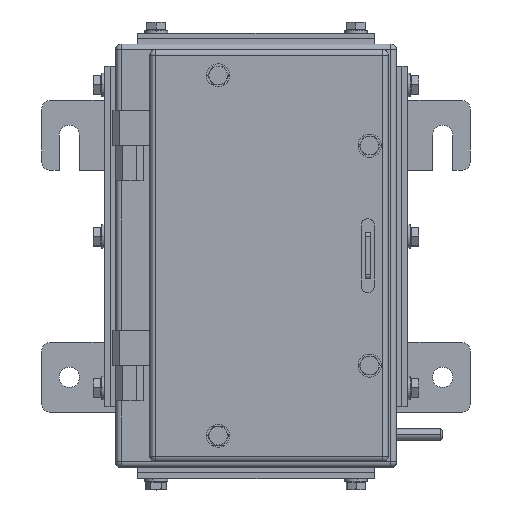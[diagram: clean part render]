
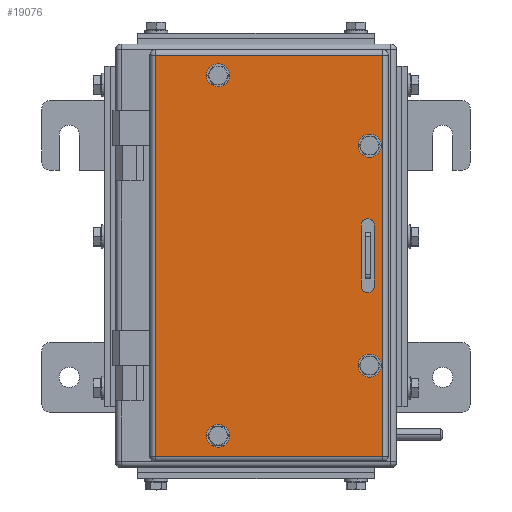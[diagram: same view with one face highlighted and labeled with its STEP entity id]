
A CAD part, top view. The second image highlights one B-rep face of the part: STEP entity #19076.
In plain terms, the highlighted planar face has unit normal (0, 0, 1).
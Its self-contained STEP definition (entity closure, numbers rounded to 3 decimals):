
#20 = EDGE_CURVE ( 'NONE', #1054, #2568, #14419, .T. ) ;
#153 = EDGE_LOOP ( 'NONE', ( #16931, #2972, #19862, #11335 ) ) ;
#221 = FACE_OUTER_BOUND ( 'NONE', #21946, .T. ) ;
#264 = VERTEX_POINT ( 'NONE', #785 ) ;
#358 = CARTESIAN_POINT ( 'NONE',  ( 126.5, 59.5, 18. ) ) ;
#453 = CARTESIAN_POINT ( 'NONE',  ( 48., -97.5, 18. ) ) ;
#639 = EDGE_CURVE ( 'NONE', #1714, #22786, #1722, .T. ) ;
#660 = LINE ( 'NONE', #9839, #17932 ) ;
#785 = CARTESIAN_POINT ( 'NONE',  ( 51.5, 97.5, 18. ) ) ;
#999 = CARTESIAN_POINT ( 'NONE',  ( 137., -108.5, 18. ) ) ;
#1041 = CARTESIAN_POINT ( 'NONE',  ( 125.5, -16.5, 18. ) ) ;
#1054 = VERTEX_POINT ( 'NONE', #358 ) ;
#1407 = LINE ( 'NONE', #4693, #15894 ) ;
#1484 = DIRECTION ( 'NONE',  ( 1., 0., 0. ) ) ;
#1714 = VERTEX_POINT ( 'NONE', #15611 ) ;
#1722 = CIRCLE ( 'NONE', #7369, 3.5 ) ;
#1764 = EDGE_LOOP ( 'NONE', ( #14512, #13770 ) ) ;
#1790 = DIRECTION ( 'NONE',  ( 1., 0., 0. ) ) ;
#1854 = CARTESIAN_POINT ( 'NONE',  ( 44.5, 97.5, 18. ) ) ;
#1988 = DIRECTION ( 'NONE',  ( 1., 0., 0. ) ) ;
#2232 = CARTESIAN_POINT ( 'NONE',  ( 140., 111.5, 18. ) ) ;
#2289 = CARTESIAN_POINT ( 'NONE',  ( 137., 108.5, 18. ) ) ;
#2291 = AXIS2_PLACEMENT_3D ( 'NONE', #9110, #21363, #6691 ) ;
#2395 = VERTEX_POINT ( 'NONE', #21543 ) ;
#2568 = VERTEX_POINT ( 'NONE', #16736 ) ;
#2658 = EDGE_CURVE ( 'NONE', #2395, #13946, #18042, .T. ) ;
#2714 = ORIENTED_EDGE ( 'NONE', *, *, #13389, .T. ) ;
#2750 = CARTESIAN_POINT ( 'NONE',  ( 14., 108.5, 18. ) ) ;
#2796 = DIRECTION ( 'NONE',  ( 0., -1., 0. ) ) ;
#2862 = DIRECTION ( 'NONE',  ( 1., 0., 0. ) ) ;
#2972 = ORIENTED_EDGE ( 'NONE', *, *, #2658, .F. ) ;
#3102 = CARTESIAN_POINT ( 'NONE',  ( 14., -108.5, 18. ) ) ;
#3182 = CARTESIAN_POINT ( 'NONE',  ( 51.5, -97.5, 18. ) ) ;
#3340 = CIRCLE ( 'NONE', #16468, 3.5 ) ;
#3402 = AXIS2_PLACEMENT_3D ( 'NONE', #13677, #22476, #2862 ) ;
#3403 = CARTESIAN_POINT ( 'NONE',  ( 129., -16.5, 18. ) ) ;
#3563 = CARTESIAN_POINT ( 'NONE',  ( 137., 111.5, 18. ) ) ;
#3854 = EDGE_CURVE ( 'NONE', #4027, #20258, #7008, .T. ) ;
#4021 = ORIENTED_EDGE ( 'NONE', *, *, #20, .F. ) ;
#4027 = VERTEX_POINT ( 'NONE', #2750 ) ;
#4203 = DIRECTION ( 'NONE',  ( 1., 0., 0. ) ) ;
#4265 = ORIENTED_EDGE ( 'NONE', *, *, #11876, .T. ) ;
#4266 = VECTOR ( 'NONE', #2796, 1000. ) ;
#4457 = LINE ( 'NONE', #15389, #22543 ) ;
#4488 = ORIENTED_EDGE ( 'NONE', *, *, #11023, .F. ) ;
#4531 = AXIS2_PLACEMENT_3D ( 'NONE', #453, #20216, #6102 ) ;
#4566 = DIRECTION ( 'NONE',  ( 0., 1., 0. ) ) ;
#4585 = EDGE_LOOP ( 'NONE', ( #16946, #18552 ) ) ;
#4693 = CARTESIAN_POINT ( 'NONE',  ( 140., 108.5, 18. ) ) ;
#4890 = ORIENTED_EDGE ( 'NONE', *, *, #22901, .F. ) ;
#4918 = CIRCLE ( 'NONE', #9811, 3.5 ) ;
#5600 = VECTOR ( 'NONE', #16054, 1000. ) ;
#6102 = DIRECTION ( 'NONE',  ( 1., 0., 0. ) ) ;
#6293 = EDGE_CURVE ( 'NONE', #2568, #1054, #10674, .T. ) ;
#6691 = DIRECTION ( 'NONE',  ( 1., 0., 0. ) ) ;
#6788 = CARTESIAN_POINT ( 'NONE',  ( 48., 97.5, 18. ) ) ;
#7008 = LINE ( 'NONE', #8889, #5600 ) ;
#7369 = AXIS2_PLACEMENT_3D ( 'NONE', #12553, #12213, #14425 ) ;
#7428 = VERTEX_POINT ( 'NONE', #17005 ) ;
#8677 = CIRCLE ( 'NONE', #2291, 3.5 ) ;
#8889 = CARTESIAN_POINT ( 'NONE',  ( 14., 111.5, 18. ) ) ;
#9013 = CIRCLE ( 'NONE', #18016, 3.5 ) ;
#9045 = DIRECTION ( 'NONE',  ( 1., 0., 0. ) ) ;
#9110 = CARTESIAN_POINT ( 'NONE',  ( 48., 97.5, 18. ) ) ;
#9191 = FACE_BOUND ( 'NONE', #1764, .T. ) ;
#9414 = PLANE ( 'NONE',  #16784 ) ;
#9674 = CARTESIAN_POINT ( 'NONE',  ( 48., -97.5, 18. ) ) ;
#9811 = AXIS2_PLACEMENT_3D ( 'NONE', #3403, #10562, #9045 ) ;
#9839 = CARTESIAN_POINT ( 'NONE',  ( 140., -108.5, 18. ) ) ;
#9865 = CARTESIAN_POINT ( 'NONE',  ( 133.5, -59.5, 18. ) ) ;
#9996 = ORIENTED_EDGE ( 'NONE', *, *, #3854, .T. ) ;
#10373 = LINE ( 'NONE', #3563, #19637 ) ;
#10562 = DIRECTION ( 'NONE',  ( 0., 0., 1. ) ) ;
#10674 = CIRCLE ( 'NONE', #19676, 3.5 ) ;
#10744 = DIRECTION ( 'NONE',  ( 0., 0., 1. ) ) ;
#11023 = EDGE_CURVE ( 'NONE', #264, #18157, #9013, .T. ) ;
#11335 = ORIENTED_EDGE ( 'NONE', *, *, #23053, .F. ) ;
#11438 = CIRCLE ( 'NONE', #18953, 3.5 ) ;
#11876 = EDGE_CURVE ( 'NONE', #14408, #17435, #10373, .T. ) ;
#11916 = ORIENTED_EDGE ( 'NONE', *, *, #6293, .F. ) ;
#11974 = LINE ( 'NONE', #12088, #4266 ) ;
#12088 = CARTESIAN_POINT ( 'NONE',  ( 125.5, 16.5, 18. ) ) ;
#12213 = DIRECTION ( 'NONE',  ( 0., 0., 1. ) ) ;
#12553 = CARTESIAN_POINT ( 'NONE',  ( 130., -59.5, 18. ) ) ;
#13050 = FACE_BOUND ( 'NONE', #17939, .T. ) ;
#13362 = VERTEX_POINT ( 'NONE', #3182 ) ;
#13389 = EDGE_CURVE ( 'NONE', #17435, #4027, #1407, .T. ) ;
#13677 = CARTESIAN_POINT ( 'NONE',  ( 129., 16.5, 18. ) ) ;
#13770 = ORIENTED_EDGE ( 'NONE', *, *, #639, .F. ) ;
#13899 = EDGE_CURVE ( 'NONE', #13946, #19169, #11974, .T. ) ;
#13946 = VERTEX_POINT ( 'NONE', #21120 ) ;
#14378 = CARTESIAN_POINT ( 'NONE',  ( 130., 59.5, 18. ) ) ;
#14408 = VERTEX_POINT ( 'NONE', #999 ) ;
#14419 = CIRCLE ( 'NONE', #14810, 3.5 ) ;
#14425 = DIRECTION ( 'NONE',  ( 1., 0., 0. ) ) ;
#14470 = FACE_BOUND ( 'NONE', #4585, .T. ) ;
#14512 = ORIENTED_EDGE ( 'NONE', *, *, #16327, .F. ) ;
#14584 = DIRECTION ( 'NONE',  ( 0., 0., -1. ) ) ;
#14682 = CIRCLE ( 'NONE', #4531, 3.5 ) ;
#14810 = AXIS2_PLACEMENT_3D ( 'NONE', #15861, #17635, #1988 ) ;
#15070 = DIRECTION ( 'NONE',  ( 1., 0., 0. ) ) ;
#15389 = CARTESIAN_POINT ( 'NONE',  ( 132.5, 16.5, 18. ) ) ;
#15611 = CARTESIAN_POINT ( 'NONE',  ( 126.5, -59.5, 18. ) ) ;
#15776 = DIRECTION ( 'NONE',  ( 0., 1., 0. ) ) ;
#15788 = DIRECTION ( 'NONE',  ( 0., 0., 1. ) ) ;
#15861 = CARTESIAN_POINT ( 'NONE',  ( 130., 59.5, 18. ) ) ;
#15894 = VECTOR ( 'NONE', #20797, 1000. ) ;
#16054 = DIRECTION ( 'NONE',  ( 0., -1., 0. ) ) ;
#16283 = EDGE_LOOP ( 'NONE', ( #11916, #4021 ) ) ;
#16327 = EDGE_CURVE ( 'NONE', #22786, #1714, #11438, .T. ) ;
#16344 = FACE_BOUND ( 'NONE', #153, .T. ) ;
#16468 = AXIS2_PLACEMENT_3D ( 'NONE', #9674, #16833, #15070 ) ;
#16495 = CARTESIAN_POINT ( 'NONE',  ( 44.5, -97.5, 18. ) ) ;
#16736 = CARTESIAN_POINT ( 'NONE',  ( 133.5, 59.5, 18. ) ) ;
#16784 = AXIS2_PLACEMENT_3D ( 'NONE', #2232, #14584, #21740 ) ;
#16833 = DIRECTION ( 'NONE',  ( 0., 0., 1. ) ) ;
#16931 = ORIENTED_EDGE ( 'NONE', *, *, #13899, .F. ) ;
#16946 = ORIENTED_EDGE ( 'NONE', *, *, #20629, .F. ) ;
#17005 = CARTESIAN_POINT ( 'NONE',  ( 132.5, -16.5, 18. ) ) ;
#17435 = VERTEX_POINT ( 'NONE', #2289 ) ;
#17635 = DIRECTION ( 'NONE',  ( 0., 0., 1. ) ) ;
#17932 = VECTOR ( 'NONE', #4203, 1000. ) ;
#17939 = EDGE_LOOP ( 'NONE', ( #4488, #4890 ) ) ;
#18016 = AXIS2_PLACEMENT_3D ( 'NONE', #6788, #19366, #1484 ) ;
#18042 = CIRCLE ( 'NONE', #3402, 3.5 ) ;
#18157 = VERTEX_POINT ( 'NONE', #1854 ) ;
#18552 = ORIENTED_EDGE ( 'NONE', *, *, #22646, .F. ) ;
#18953 = AXIS2_PLACEMENT_3D ( 'NONE', #19551, #15788, #1790 ) ;
#19076 = ADVANCED_FACE ( 'NONE', ( #21858, #9191, #16344, #14470, #13050, #221 ), #9414, .F. ) ;
#19169 = VERTEX_POINT ( 'NONE', #1041 ) ;
#19366 = DIRECTION ( 'NONE',  ( 0., 0., 1. ) ) ;
#19551 = CARTESIAN_POINT ( 'NONE',  ( 130., -59.5, 18. ) ) ;
#19637 = VECTOR ( 'NONE', #15776, 1000. ) ;
#19676 = AXIS2_PLACEMENT_3D ( 'NONE', #14378, #10744, #20008 ) ;
#19734 = EDGE_CURVE ( 'NONE', #20258, #14408, #660, .T. ) ;
#19862 = ORIENTED_EDGE ( 'NONE', *, *, #22737, .F. ) ;
#20008 = DIRECTION ( 'NONE',  ( 1., 0., 0. ) ) ;
#20216 = DIRECTION ( 'NONE',  ( 0., 0., 1. ) ) ;
#20258 = VERTEX_POINT ( 'NONE', #3102 ) ;
#20629 = EDGE_CURVE ( 'NONE', #13362, #21752, #3340, .T. ) ;
#20797 = DIRECTION ( 'NONE',  ( -1., 0., 0. ) ) ;
#21120 = CARTESIAN_POINT ( 'NONE',  ( 125.5, 16.5, 18. ) ) ;
#21363 = DIRECTION ( 'NONE',  ( 0., 0., 1. ) ) ;
#21543 = CARTESIAN_POINT ( 'NONE',  ( 132.5, 16.5, 18. ) ) ;
#21740 = DIRECTION ( 'NONE',  ( -1., 0., 0. ) ) ;
#21752 = VERTEX_POINT ( 'NONE', #16495 ) ;
#21858 = FACE_BOUND ( 'NONE', #16283, .T. ) ;
#21946 = EDGE_LOOP ( 'NONE', ( #22088, #4265, #2714, #9996 ) ) ;
#22088 = ORIENTED_EDGE ( 'NONE', *, *, #19734, .T. ) ;
#22476 = DIRECTION ( 'NONE',  ( 0., 0., 1. ) ) ;
#22543 = VECTOR ( 'NONE', #4566, 1000. ) ;
#22646 = EDGE_CURVE ( 'NONE', #21752, #13362, #14682, .T. ) ;
#22737 = EDGE_CURVE ( 'NONE', #7428, #2395, #4457, .T. ) ;
#22786 = VERTEX_POINT ( 'NONE', #9865 ) ;
#22901 = EDGE_CURVE ( 'NONE', #18157, #264, #8677, .T. ) ;
#23053 = EDGE_CURVE ( 'NONE', #19169, #7428, #4918, .T. ) ;
